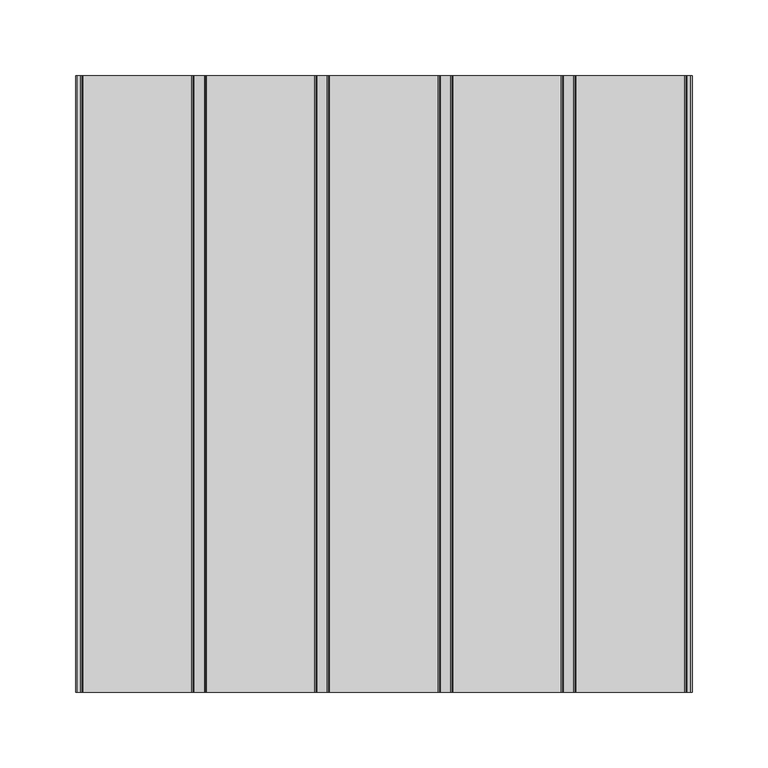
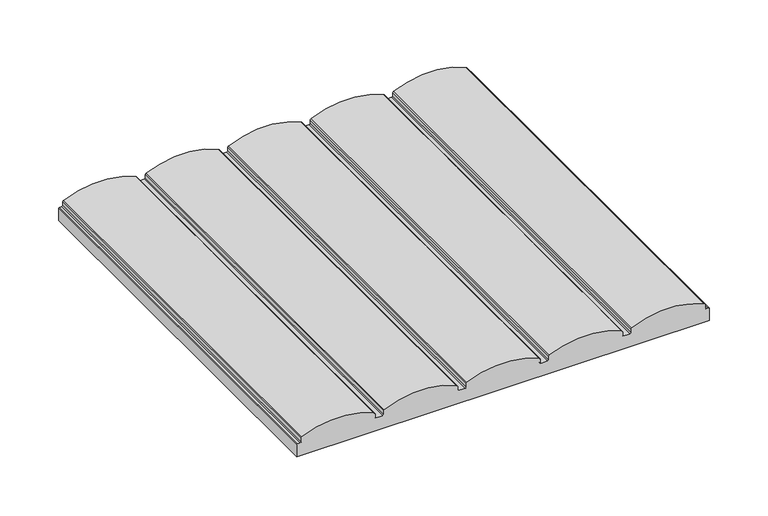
"""IFC4 building model written with IfcOpenShell, lengths in millimetres: proxy geometry, Spinneybeck_Porto 1 : Porto 1."""

from ifc_helpers import new_model, si_unit, point, frame, frame_2d, origin, place, context, project, spatial, polyline, circle_curve, trimmed, segment, composite_curve, outline, extrude, source, transform, mapped, element, save


def specialty_equipment_0b573f12(model_context):
    return source(origin(), model_context, "Body", "SweptSolid", [
        extrude(outline(composite_curve([segment(polyline([(0.0, -203.2), (0.0, 203.2), (12.5078125, 203.2)]), True, "CONTINUOUS"), segment(trimmed(circle_curve(frame_2d((12.5078125, 202.2078125)), 0.9921875), [point((12.5078125, 203.2))], [point((13.5, 202.2078125))], False, "CARTESIAN"), True, "CONTINUOUS"), segment(polyline([(13.5, 202.2078125), (13.5, 199.9465867)]), True, "CONTINUOUS"), segment(trimmed(circle_curve(frame_2d((14.4921875, 199.9465867)), 0.9921875), [point((13.5, 199.9465867))], [point((14.4921875, 198.9543992))], True, "CARTESIAN"), True, "CONTINUOUS"), segment(polyline([(14.4921875, 198.9543992), (17.9268461, 198.9543992)]), True, "CONTINUOUS"), segment(trimmed(circle_curve(frame_2d((17.9268461, 197.6645554)), 1.2898438), [point((17.9268461, 198.9543992))], [point((19.0971842, 198.2067783))], False, "CARTESIAN"), True, "CONTINUOUS"), segment(trimmed(circle_curve(frame_2d((-57.8431012, 162.56)), 84.7968178), [point((19.0971842, 198.2067783))], [point((19.0971842, 126.9132217))], False, "CARTESIAN"), True, "CONTINUOUS"), segment(trimmed(circle_curve(frame_2d((17.9268461, 127.4554446)), 1.2898437), [point((19.0971842, 126.9132217))], [point((17.9268461, 126.1656008))], False, "CARTESIAN"), True, "CONTINUOUS"), segment(polyline([(17.9268461, 126.1656008), (14.4921875, 126.1656008)]), True, "CONTINUOUS"), segment(trimmed(circle_curve(frame_2d((14.4921875, 125.1734133)), 0.9921875), [point((14.4921875, 126.1656008))], [point((13.5, 125.1734133))], True, "CARTESIAN"), True, "CONTINUOUS"), segment(polyline([(13.5, 125.1734133), (13.5, 118.6665867)]), True, "CONTINUOUS"), segment(trimmed(circle_curve(frame_2d((14.4921875, 118.6665867)), 0.9921875), [point((13.5, 118.6665867))], [point((14.4921875, 117.6743992))], True, "CARTESIAN"), True, "CONTINUOUS"), segment(polyline([(14.4921875, 117.6743992), (17.9268461, 117.6743992)]), True, "CONTINUOUS"), segment(trimmed(circle_curve(frame_2d((17.9268461, 116.3845554)), 1.2898437), [point((17.9268461, 117.6743992))], [point((19.0971842, 116.9267783))], False, "CARTESIAN"), True, "CONTINUOUS"), segment(trimmed(circle_curve(frame_2d((-57.8431012, 81.28)), 84.7968178), [point((19.0971842, 116.9267783))], [point((19.0971842, 45.6332217))], False, "CARTESIAN"), True, "CONTINUOUS"), segment(trimmed(circle_curve(frame_2d((17.9268461, 46.1754446)), 1.2898437), [point((19.0971842, 45.6332217))], [point((17.9268461, 44.8856008))], False, "CARTESIAN"), True, "CONTINUOUS"), segment(polyline([(17.9268461, 44.8856008), (14.4921875, 44.8856008)]), True, "CONTINUOUS"), segment(trimmed(circle_curve(frame_2d((14.4921875, 43.8934133)), 0.9921875), [point((14.4921875, 44.8856008))], [point((13.5, 43.8934133))], True, "CARTESIAN"), True, "CONTINUOUS"), segment(polyline([(13.5, 43.8934133), (13.5, 37.3865867)]), True, "CONTINUOUS"), segment(trimmed(circle_curve(frame_2d((14.4921875, 37.3865867)), 0.9921875), [point((13.5, 37.3865867))], [point((14.4921875, 36.3943992))], True, "CARTESIAN"), True, "CONTINUOUS"), segment(polyline([(14.4921875, 36.3943992), (17.9268461, 36.3943992)]), True, "CONTINUOUS"), segment(trimmed(circle_curve(frame_2d((17.9268461, 35.1045554)), 1.2898437), [point((17.9268461, 36.3943992))], [point((19.0971842, 35.6467783))], False, "CARTESIAN"), True, "CONTINUOUS"), segment(trimmed(circle_curve(frame_2d((-57.8431012, 0.0)), 84.7968178), [point((19.0971842, 35.6467783))], [point((19.0971842, -35.6467783))], False, "CARTESIAN"), True, "CONTINUOUS"), segment(trimmed(circle_curve(frame_2d((17.9268461, -35.1045554)), 1.2898437), [point((19.0971842, -35.6467783))], [point((17.9268461, -36.3943992))], False, "CARTESIAN"), True, "CONTINUOUS"), segment(polyline([(17.9268461, -36.3943992), (14.4921875, -36.3943992)]), True, "CONTINUOUS"), segment(trimmed(circle_curve(frame_2d((14.4921875, -37.3865867)), 0.9921875), [point((14.4921875, -36.3943992))], [point((13.5, -37.3865867))], True, "CARTESIAN"), True, "CONTINUOUS"), segment(polyline([(13.5, -37.3865867), (13.5, -43.8934133)]), True, "CONTINUOUS"), segment(trimmed(circle_curve(frame_2d((14.4921875, -43.8934133)), 0.9921875), [point((13.5, -43.8934133))], [point((14.4921875, -44.8856008))], True, "CARTESIAN"), True, "CONTINUOUS"), segment(polyline([(14.4921875, -44.8856008), (17.9268461, -44.8856008)]), True, "CONTINUOUS"), segment(trimmed(circle_curve(frame_2d((17.9268461, -46.1754446)), 1.2898438), [point((17.9268461, -44.8856008))], [point((19.0971842, -45.6332217))], False, "CARTESIAN"), True, "CONTINUOUS"), segment(trimmed(circle_curve(frame_2d((-57.8431012, -81.28)), 84.7968178), [point((19.0971842, -45.6332217))], [point((19.0971842, -116.9267783))], False, "CARTESIAN"), True, "CONTINUOUS"), segment(trimmed(circle_curve(frame_2d((17.9268461, -116.3845554)), 1.2898437), [point((19.0971842, -116.9267783))], [point((17.9268461, -117.6743992))], False, "CARTESIAN"), True, "CONTINUOUS"), segment(polyline([(17.9268461, -117.6743992), (14.4921875, -117.6743992)]), True, "CONTINUOUS"), segment(trimmed(circle_curve(frame_2d((14.4921875, -118.6665867)), 0.9921875), [point((14.4921875, -117.6743992))], [point((13.5, -118.6665867))], True, "CARTESIAN"), True, "CONTINUOUS"), segment(polyline([(13.5, -118.6665867), (13.5, -125.1734133)]), True, "CONTINUOUS"), segment(trimmed(circle_curve(frame_2d((14.4921875, -125.1734133)), 0.9921875), [point((13.5, -125.1734133))], [point((14.4921875, -126.1656008))], True, "CARTESIAN"), True, "CONTINUOUS"), segment(polyline([(14.4921875, -126.1656008), (17.9268461, -126.1656008)]), True, "CONTINUOUS"), segment(trimmed(circle_curve(frame_2d((17.9268461, -127.4554446)), 1.2898437), [point((17.9268461, -126.1656008))], [point((19.0971842, -126.9132217))], False, "CARTESIAN"), True, "CONTINUOUS"), segment(trimmed(circle_curve(frame_2d((-57.8431012, -162.56)), 84.7968178), [point((19.0971842, -126.9132217))], [point((19.0971842, -198.2067783))], False, "CARTESIAN"), True, "CONTINUOUS"), segment(trimmed(circle_curve(frame_2d((17.9268461, -197.6645554)), 1.2898437), [point((19.0971842, -198.2067783))], [point((17.9268461, -198.9543992))], False, "CARTESIAN"), True, "CONTINUOUS"), segment(polyline([(17.9268461, -198.9543992), (14.4921875, -198.9543992)]), True, "CONTINUOUS"), segment(trimmed(circle_curve(frame_2d((14.4921875, -199.9465867)), 0.9921875), [point((14.4921875, -198.9543992))], [point((13.5, -199.9465867))], True, "CARTESIAN"), True, "CONTINUOUS"), segment(polyline([(13.5, -199.9465867), (13.5, -202.2078125)]), True, "CONTINUOUS"), segment(trimmed(circle_curve(frame_2d((12.5078125, -202.2078125)), 0.9921875), [point((13.5, -202.2078125))], [point((12.5078125, -203.2))], False, "CARTESIAN"), True, "CONTINUOUS"), segment(polyline([(12.5078125, -203.2), (0.0, -203.2)]), True, "CONTINUOUS")], self_intersect=False)), frame((0.0, -203.2, 0.0), z_axis=(0.0, 1.0, 0.0), x_axis=(0.0, 0.0, 1.0)), (0.0, 0.0, 1.0), 406.4),
    ])


if __name__ == "__main__":
    model = new_model("IFC4")
    model_context = context("Model", 3, world=origin())
    ifc_project = project(units=[si_unit("LENGTHUNIT", "METRE", prefix="MILLI")], contexts=[model_context])
    site = spatial("IfcSite", under=ifc_project)
    building = spatial("IfcBuilding", under=site)
    placement = place(None, origin())
    specialty_equipment_shape = specialty_equipment_0b573f12(model_context)
    element("IfcBuildingElementProxy", 1, Name="Spinneybeck_Porto 1 : Porto 1", ObjectType="Spinneybeck_Porto 1 : Porto 1", at=placement, inside=building, context=model_context, shape_type="MappedRepresentation", body=[
        mapped(specialty_equipment_shape, transform((0.0, 0.0, 0.0), x_axis=(1.0, 0.0, 0.0), y_axis=(0.0, 1.0, 0.0), z_axis=(0.0, 0.0, 1.0))),
    ])
    save(model, "model.ifc")
